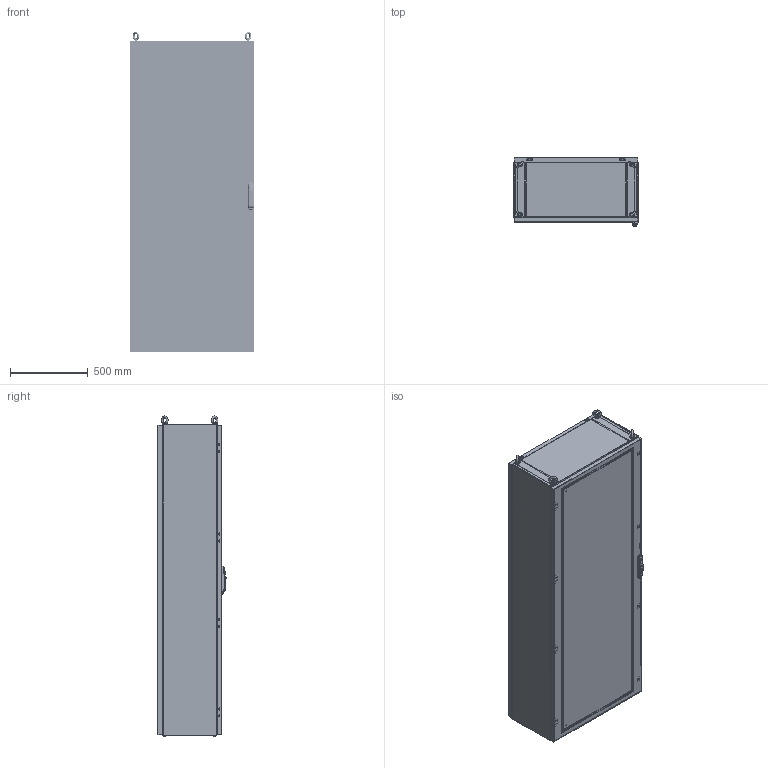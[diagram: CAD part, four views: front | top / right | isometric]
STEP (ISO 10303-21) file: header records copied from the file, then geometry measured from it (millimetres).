
FILE_DESCRIPTION(/* description */ ('Unknown'),/* implementation_level */ '2;1');
FILE_NAME(/* name */ 'FCA08020040',/* time_stamp */ '2024-12-12T12:07:11+01:00',/* author */ ('Unknown'),/* organization */ ('Unknown'),/* preprocessor_version */ 'ST-DEVELOPER v19.4',/* originating_system */ 'Solid Edge',/* authorisation */ 'Unknown');
FILE_SCHEMA (('CONFIG_CONTROL_DESIGN'));
Length unit declared in the file: millimetre
Products named in the file (60): FCA08020040; F000X001.25; F0000000.53; F000X001.01; F0000000.84; F0000000.55; F0000000.02; F000X001.00; F0000000.83; AE00500.10; AE00715.01; M0000000.37; F000X001.85; F000X001.86; F0000001.39; F0000000.07; AE00100.03_oa_0; AE00100.03_oa_1; AE00100.03_oa_2; AE00100.03_oa_3; F000X000.12_oa_4; F000X000.17_oa_5; F0000000.20; 38790003.14_oa_6; F000X000.18; F0000000.21; 38790003.14_oa_7; F000X000.19_oa_8; AE00217.25; AE00309.01; F000X000.20_oa_9; AE00368.00; AE00219.00; AE00224.00; AE00198.03; AE00219.03; F0000001.24; AE00701.03; F0000000.13; F0000000.08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
Assembly tree (209 placements, depth 5):
  FCA08020040
    F000X001.25
      F0000000.53  x2
      F000X001.01
        F0000000.84
        F0000000.55  x2
        F0000000.02  x4
      F000X001.00
        F0000000.83
        F0000000.55  x2
        F0000000.02  x4
      AE00500.10  x32
    AE00715.01  x4
    M0000000.37  x8
    F000X001.85
      F000X001.86
        F0000001.39
      F0000000.07  x2
      AE00100.03_oa_0
      AE00100.03_oa_1
      AE00100.03_oa_2
      AE00100.03_oa_3
    F000X000.12_oa_4
      F000X000.17_oa_5
        F0000000.20
        38790003.14_oa_6
      F000X000.18
        F0000000.21
        38790003.14_oa_7
      F000X000.19_oa_8
        F0000000.21
        AE00217.25
        AE00309.01
      F000X000.20_oa_9
        F0000000.20
        AE00217.25
        AE00309.01
      AE00368.00  x8
      AE00219.00  x8
      AE00224.00  x2
    AE00198.03  x16
    AE00219.03  x8
    F0000001.24  x4
    AE00701.03  x4
    F0000000.13  x4
    F0000000.08  x4
    F000X000.07
      F000X000.08
        F000X000.09
          F0000000.09
        F000X000.10
          F0000002.22  x2
          F0000002.17  x2
          AE01400.01  x4
        AE00413.05  x4
        AE00417.01  x2
      F0000000.12  x8
      AE00222.15  x8
      AE00316.01  x8
      AE00992.10_oa_10
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Bounding box: 800 x 438.2 x 2057.48 mm (x, y, z)
Volume: 15760288.3 mm3; surface area: 13069265.2 mm2
Topology: 214 solids, 214 shells, 5989 faces, 15702 edges, 10161 vertices
Faces by surface type: plane 3638, cylinder 1677, cone 446, sphere 136, torus 78, bspline 14
Full cylindrical faces by diameter (mm): 2 x4, 3 x1, 3.242 x2, 4 x12, 4.134 x5, 4.25 x198, 4.5 x164, 4.917 x57, 4.918 x8, 5 x6, 6 x66, 6.1 x20, 6.2 x8, 6.5 x28, 6.647 x4, 7.5 x2, 7.8 x2, 8 x8, 8.25 x4, 8.3 x8, 8.5 x2, 9 x32, 10 x2, 10.106 x8, 10.5 x24, 11.8 x8, 12 x24, 14 x1, 16 x1, 17 x3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
Entity records: 51368 total; most frequent: CARTESIAN_POINT 8929, DIRECTION 7921, ORIENTED_EDGE 7338, EDGE_CURVE 3669, AXIS2_PLACEMENT_3D 2687, VERTEX_POINT 2573, LINE 2547, VECTOR 2547
